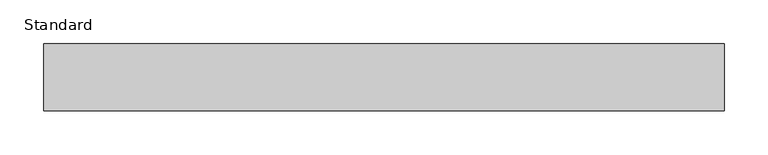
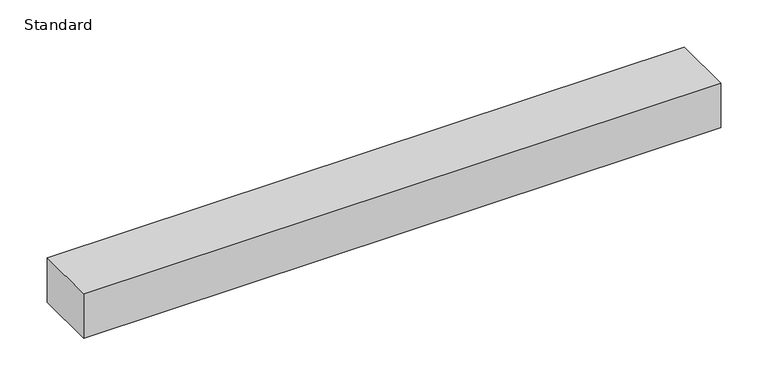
"""IFC4 building model written with IfcOpenShell, lengths in millimetres: proxy geometry, Raceway-ALA3800_Series-Wiremold-Steel : Standard."""

from ifc_helpers import new_model, si_unit, origin, origin_with_axes, place, context, project, spatial, polyline, outline, extrude, source, transform, mapped, element, save


def standard_84e361b9(model_context):
    return source(origin(), model_context, "Body", "SweptSolid", [
        extrude(outline(polyline([(774.4555992, 38.1), (774.4555992, -38.1), (0.0, -38.1), (0.0, 38.1), (774.4555992, 38.1)])), origin_with_axes(), (0.0, 0.0, 1.0), 57.15),
    ])


if __name__ == "__main__":
    model = new_model("IFC4")
    model_context = context("Model", 3, world=origin())
    ifc_project = project(units=[si_unit("LENGTHUNIT", "METRE", prefix="MILLI")], contexts=[model_context])
    site = spatial("IfcSite", under=ifc_project)
    building = spatial("IfcBuilding", under=site)
    placement = place(None, origin())
    standard_shape = standard_84e361b9(model_context)
    element("IfcBuildingElementProxy", 1, Name="Raceway-ALA3800_Series-Wiremold-Steel : Standard", ObjectType="Raceway-ALA3800_Series-Wiremold-Steel : Standard", at=placement, inside=building, context=model_context, shape_type="MappedRepresentation", body=[
        mapped(standard_shape, transform((0.0, 0.0, 0.0), x_axis=(1.0, 0.0, 0.0), y_axis=(0.0, 1.0, 0.0), z_axis=(0.0, 0.0, 1.0))),
    ])
    save(model, "model.ifc")
